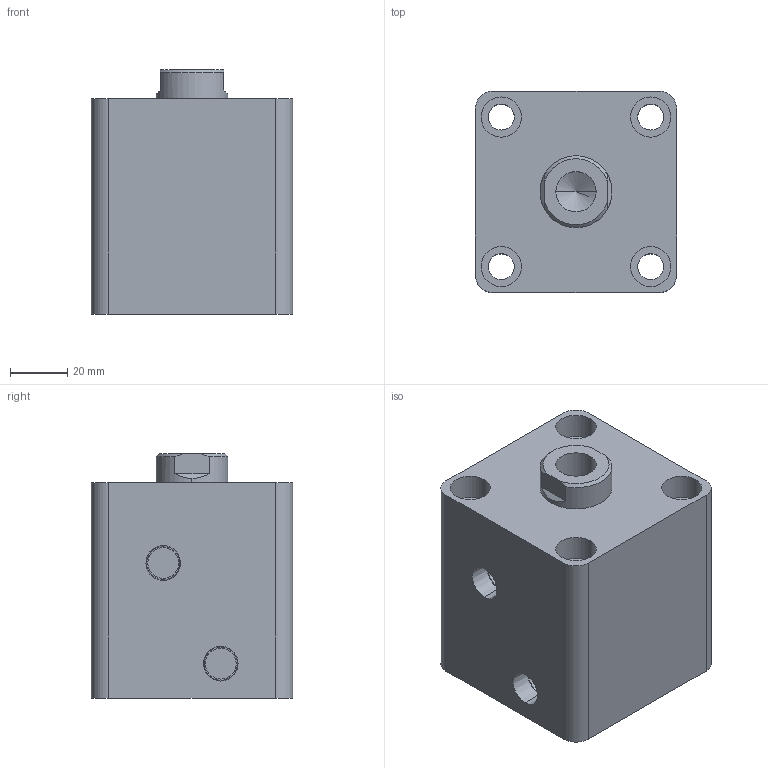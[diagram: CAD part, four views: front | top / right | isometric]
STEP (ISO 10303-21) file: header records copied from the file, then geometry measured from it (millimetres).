
FILE_DESCRIPTION (( 'STEP AP203' ), '1' );
FILE_NAME ('HTB-SD40-20N.STEP', '2019-10-07T06:47:56', ( '微软用户' ), ( '微软中国' ), 'SwSTEP 2.0', 'SolidWorks 2012', '' );
FILE_SCHEMA (( 'CONFIG_CONTROL_DESIGN' ));
Length unit declared in the file: millimetre
Products named in the file (3): HTB-SD40-20N; HTB-SD40-20掛极; HTB-SD40-20N活塞杆
Assembly tree (2 placements, depth 2):
  HTB-SD40-20N
    HTB-SD40-20掛极
    HTB-SD40-20N活塞杆
Bounding box: 70 x 70 x 85 mm (x, y, z)
Volume: 323736.4 mm3; surface area: 58220.3 mm2
Topology: 2 solids, 2 shells, 81 faces, 180 edges, 117 vertices
Faces by surface type: cylinder 42, plane 27, cone 8, torus 4
Entity records: 2603 total; most frequent: DIRECTION 444, CARTESIAN_POINT 409, ORIENTED_EDGE 356, AXIS2_PLACEMENT_3D 188, EDGE_CURVE 178, VERTEX_POINT 117, EDGE_LOOP 105, CIRCLE 102
